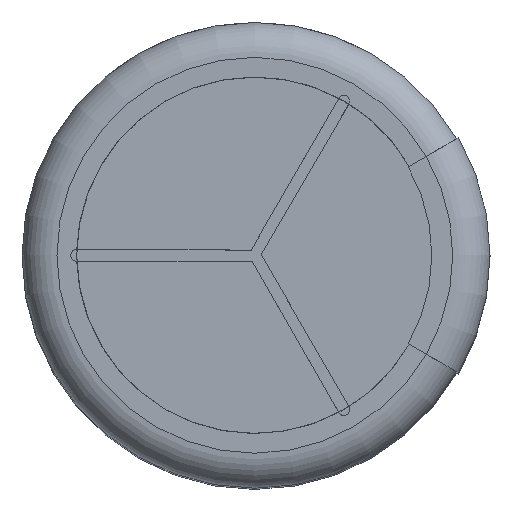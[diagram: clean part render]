
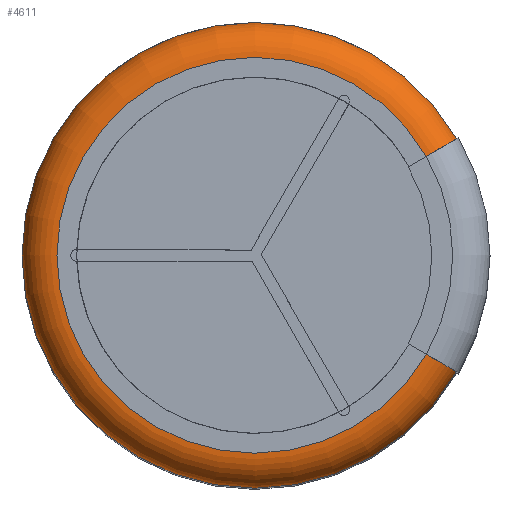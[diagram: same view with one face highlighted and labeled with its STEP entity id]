
A CAD part, top view. The second image highlights one B-rep face of the part: STEP entity #4611.
In plain terms, the highlighted toroidal (fillet/blend) face has major radius 1.7 mm and minor radius 0.3 mm.
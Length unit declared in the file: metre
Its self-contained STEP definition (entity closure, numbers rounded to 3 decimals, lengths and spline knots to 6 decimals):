
#14=TOROIDAL_SURFACE('',#5208,0.0017,0.0003);
#50=CIRCLE('',#5207,0.0017);
#51=CIRCLE('',#5209,0.0003);
#52=CIRCLE('',#5210,0.0003);
#53=CIRCLE('',#5211,0.002);
#2003=ORIENTED_EDGE('',*,*,#2957,.F.);
#2004=ORIENTED_EDGE('',*,*,#2956,.T.);
#2005=ORIENTED_EDGE('',*,*,#2958,.T.);
#2006=ORIENTED_EDGE('',*,*,#2959,.F.);
#2956=EDGE_CURVE('',#3435,#3436,#50,.T.);
#2957=EDGE_CURVE('',#3435,#3437,#51,.T.);
#2958=EDGE_CURVE('',#3436,#3438,#52,.T.);
#2959=EDGE_CURVE('',#3437,#3438,#53,.T.);
#3435=VERTEX_POINT('',#9540);
#3436=VERTEX_POINT('',#9542);
#3437=VERTEX_POINT('',#9546);
#3438=VERTEX_POINT('',#9548);
#3945=EDGE_LOOP('',(#2003,#2004,#2005,#2006));
#4236=FACE_BOUND('',#3945,.T.);
#4611=ADVANCED_FACE('',(#4236),#14,.T.);
#5207=AXIS2_PLACEMENT_3D('',#9543,#6305,#6306);
#5208=AXIS2_PLACEMENT_3D('',#9544,#6307,#6308);
#5209=AXIS2_PLACEMENT_3D('',#9545,#6309,#6310);
#5210=AXIS2_PLACEMENT_3D('',#9547,#6311,#6312);
#5211=AXIS2_PLACEMENT_3D('',#9549,#6313,#6314);
#6305=DIRECTION('',(0.,0.,-1.));
#6306=DIRECTION('',(1.,0.,0.));
#6307=DIRECTION('',(0.,0.,-1.));
#6308=DIRECTION('',(1.,0.,0.));
#6309=DIRECTION('',(0.5,0.866,0.));
#6310=DIRECTION('',(-0.866,0.5,0.));
#6311=DIRECTION('',(-0.5,0.866,0.));
#6312=DIRECTION('',(-0.866,-0.5,0.));
#6313=DIRECTION('',(0.,0.,-1.));
#6314=DIRECTION('',(1.,0.,0.));
#9540=CARTESIAN_POINT('',(-0.071224,-0.016226,0.01648));
#9542=CARTESIAN_POINT('',(-0.071224,-0.014526,0.01648));
#9543=CARTESIAN_POINT('',(-0.072696,-0.015376,0.01648));
#9544=CARTESIAN_POINT('',(-0.072696,-0.015376,0.01618));
#9545=CARTESIAN_POINT('',(-0.071224,-0.016226,0.01618));
#9546=CARTESIAN_POINT('',(-0.070964,-0.016376,0.01618));
#9547=CARTESIAN_POINT('',(-0.071224,-0.014526,0.01618));
#9548=CARTESIAN_POINT('',(-0.070964,-0.014376,0.01618));
#9549=CARTESIAN_POINT('',(-0.072696,-0.015376,0.01618));
